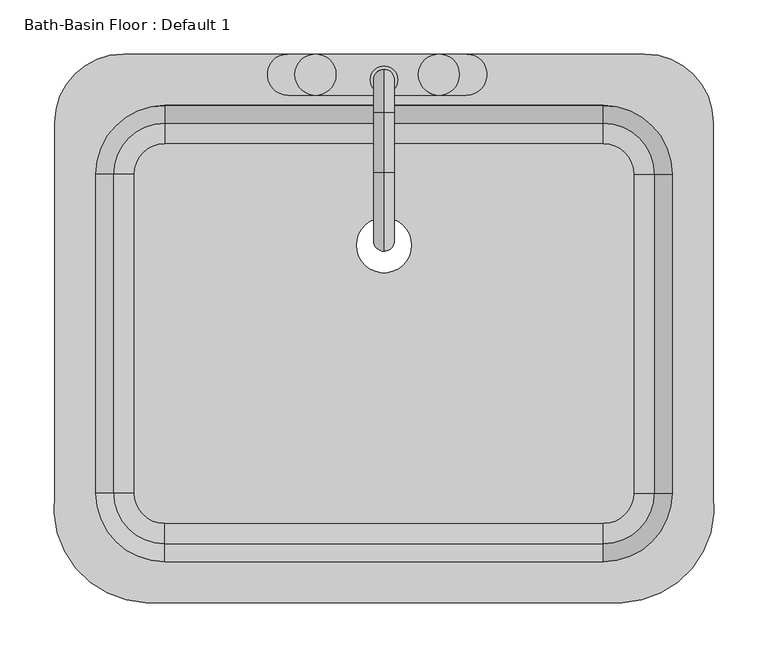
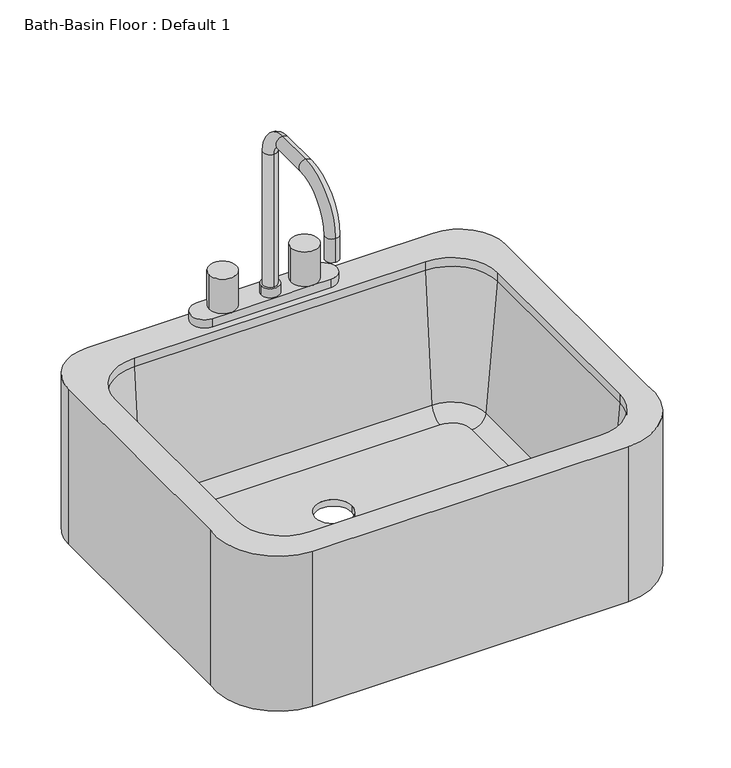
"""IFC4 building model written with IfcOpenShell, lengths in millimetres: flow terminal geometry, Bath-Basin Floor : Default 1."""

from ifc_helpers import new_model, si_unit, point, frame, origin, place, context, project, spatial, polyline, circle_curve, ellipse_curve, trimmed, source, transform, mapped, element, save
from ifc_brep_helpers import plane_surface, cylinder_surface, revolved_surface, advanced_brep


def bath_basin_floor_default_1_27cbf9b9(model_context):
    return source(origin(), model_context, "Body", "AdvancedBrep", [
        advanced_brep(
        [(-204.7606923, -327.8545989, 698.5), (-289.1107593, -226.2545982, 698.5), (-289.1107593, 116.6454011, 698.5), (-225.6107593, 180.1454011, 698.5), (256.9892406, 180.1454011, 698.5), (320.4892406, 116.6454011, 698.5), (320.4892406, -226.2545989, 698.5), (236.1391735, -327.8545989, 698.5), (-9.7107594, 3.175, 698.5), (41.0892406, 3.175, 698.5), (246.8776588, 69.0204011, 708.025), (218.8892406, 97.0088193, 708.025), (-187.5107594, 97.0088193, 708.025), (-215.4991776, 69.0204011, 708.025), (-215.4991776, -226.2545989, 708.025), (-187.5107594, -254.2430171, 708.025), (218.8892406, -254.2430171, 708.025), (246.8776588, -226.2545989, 708.025), (-9.7107594, 3.175, 708.025), (41.0892406, 3.175, 708.025), (265.8551678, 69.0204011, 725.4146831), (218.8892406, 115.9863283, 725.4146831), (282.3892406, 69.0204011, 914.4), (218.8892406, 132.5204011, 914.4), (265.8551678, -226.2545989, 725.4146831), (282.3892406, -226.2545989, 914.4), (218.8892406, -273.2205261, 725.4146831), (218.8892406, -289.7545989, 914.4), (-187.5107594, -273.2205261, 725.4146831), (-187.5107594, -289.7545989, 914.4), (-234.4766866, -226.2545989, 725.4146831), (-251.0107594, -226.2545989, 914.4), (-234.4766866, 69.0204011, 725.4146831), (-251.0107594, 69.0204011, 914.4), (-187.5107594, 115.9863283, 725.4146831), (-187.5107594, 132.5204011, 914.4), (-204.7606923, -327.8545989, 927.1), (236.1391735, -327.8545989, 927.1), (320.4892406, -226.2545989, 927.1), (320.4892406, 116.6454011, 927.1), (256.9892406, 180.1454011, 927.1), (-225.6107593, 180.1454011, 927.1), (-289.1107593, 116.6454011, 927.1), (-289.1107593, -226.2545982, 927.1), (218.8892406, 132.5204011, 927.1), (282.3892406, 69.0204011, 927.1), (282.3892406, -226.2545989, 927.1), (218.8892406, -289.7545989, 927.1), (-187.5107594, -289.7545989, 927.1), (-251.0107594, -226.2545989, 927.1), (-251.0107594, 69.0204011, 927.1), (-187.5107594, 132.5204011, 927.1)],
        [
            (0, 1, circle_curve(frame((-200.9534746, -238.8793432, 698.5), z_axis=(0.0, 0.0, -1.0), x_axis=(1.0, 0.0, 0.0)), 89.0566732)),
            (1, 2),
            (2, 3, circle_curve(frame((-225.6107593, 116.6454011, 698.5), z_axis=(0.0, 0.0, -1.0), x_axis=(1.0, 0.0, 0.0)), 63.5)),
            (3, 4),
            (4, 5, circle_curve(frame((256.9892406, 116.6454011, 698.5), z_axis=(0.0, 0.0, -1.0), x_axis=(1.0, 0.0, 0.0)), 63.5)),
            (5, 6),
            (6, 7, circle_curve(frame((232.3319557, -238.8793432, 698.5), z_axis=(0.0, 0.0, -1.0), x_axis=(1.0, 0.0, 0.0)), 89.0566732)),
            (7, 0),
            (8, 9, circle_curve(frame((15.6892406, 3.175, 698.5), z_axis=(0.0, 0.0, 1.0), x_axis=(1.0, 0.0, 0.0)), 25.4)),
            (9, 8, circle_curve(frame((15.6892406, 3.175, 698.5), z_axis=(0.0, 0.0, 1.0), x_axis=(1.0, 0.0, 0.0)), 25.4)),
            (10, 11, circle_curve(frame((218.8892406, 69.0204011, 708.025), z_axis=(0.0, 0.0, 1.0), x_axis=(0.0, 1.0, 0.0)), 27.9884182)),
            (11, 12),
            (12, 13, circle_curve(frame((-187.5107594, 69.0204011, 708.025), z_axis=(0.0, 0.0, 1.0), x_axis=(-1.0, 0.0, 0.0)), 27.9884182)),
            (13, 14),
            (14, 15, circle_curve(frame((-187.5107594, -226.2545989, 708.025), z_axis=(0.0, 0.0, 1.0), x_axis=(0.0, -1.0, 0.0)), 27.9884182)),
            (15, 16),
            (16, 17, circle_curve(frame((218.8892406, -226.2545989, 708.025), z_axis=(0.0, 0.0, 1.0), x_axis=(1.0, 0.0, 0.0)), 27.9884182)),
            (17, 10),
            (18, 19, circle_curve(frame((15.6892406, 3.175, 708.025), z_axis=(0.0, 0.0, -1.0), x_axis=(1.0, 0.0, 0.0)), 25.4)),
            (19, 18, circle_curve(frame((15.6892406, 3.175, 708.025), z_axis=(0.0, 0.0, -1.0), x_axis=(1.0, 0.0, 0.0)), 25.4)),
            (10, 20, circle_curve(frame((246.8776588, 69.0204011, 727.075), z_axis=(0.0, -1.0, 0.0), x_axis=(1.0, 0.0, 0.0)), 19.05)),
            (20, 21, circle_curve(frame((218.8892406, 69.0204011, 725.4146831), z_axis=(0.0, 0.0, 1.0), x_axis=(0.0, 1.0, 0.0)), 46.9659272)),
            (21, 11, circle_curve(frame((218.8892406, 97.0088193, 727.075), z_axis=(-1.0, 0.0, 0.0), x_axis=(0.0, 1.0, 0.0)), 19.05)),
            (20, 22),
            (22, 23, circle_curve(frame((218.8892406, 69.0204011, 914.4), z_axis=(0.0, 0.0, 1.0), x_axis=(0.0, 1.0, 0.0)), 63.5)),
            (23, 21),
            (17, 24, circle_curve(frame((246.8776588, -226.2545989, 727.075), z_axis=(0.0, -1.0, 0.0), x_axis=(1.0, 0.0, 0.0)), 19.05)),
            (24, 20),
            (24, 25),
            (25, 22),
            (16, 26, circle_curve(frame((218.8892406, -254.2430171, 727.075), z_axis=(-1.0, 0.0, 0.0), x_axis=(0.0, -1.0, 0.0)), 19.05)),
            (26, 24, circle_curve(frame((218.8892406, -226.2545989, 725.4146831), z_axis=(0.0, 0.0, 1.0), x_axis=(1.0, 0.0, 0.0)), 46.9659272)),
            (26, 27),
            (27, 25, circle_curve(frame((218.8892406, -226.2545989, 914.4), z_axis=(0.0, 0.0, 1.0), x_axis=(1.0, 0.0, 0.0)), 63.5)),
            (15, 28, circle_curve(frame((-187.5107594, -254.2430171, 727.075), z_axis=(-1.0, 0.0, 0.0), x_axis=(0.0, -1.0, 0.0)), 19.05)),
            (28, 26),
            (28, 29),
            (29, 27),
            (14, 30, circle_curve(frame((-215.4991776, -226.2545989, 727.075), z_axis=(0.0, 1.0, 0.0), x_axis=(-1.0, 0.0, 0.0)), 19.05)),
            (30, 28, circle_curve(frame((-187.5107594, -226.2545989, 725.4146831), z_axis=(0.0, 0.0, 1.0), x_axis=(0.0, -1.0, 0.0)), 46.9659272)),
            (30, 31),
            (31, 29, circle_curve(frame((-187.5107594, -226.2545989, 914.4), z_axis=(0.0, 0.0, 1.0), x_axis=(0.0, -1.0, 0.0)), 63.5)),
            (13, 32, circle_curve(frame((-215.4991776, 69.0204011, 727.075), z_axis=(0.0, 1.0, 0.0), x_axis=(-1.0, 0.0, 0.0)), 19.05)),
            (32, 30),
            (32, 33),
            (33, 31),
            (12, 34, circle_curve(frame((-187.5107594, 97.0088193, 727.075), z_axis=(1.0, 0.0, 0.0), x_axis=(0.0, 1.0, 0.0)), 19.05)),
            (34, 32, circle_curve(frame((-187.5107594, 69.0204011, 725.4146831), z_axis=(0.0, 0.0, 1.0), x_axis=(-1.0, 0.0, 0.0)), 46.9659272)),
            (34, 35),
            (35, 33, circle_curve(frame((-187.5107594, 69.0204011, 914.4), z_axis=(0.0, 0.0, 1.0), x_axis=(-1.0, 0.0, 0.0)), 63.5)),
            (21, 34),
            (23, 35),
            (18, 8),
            (9, 19),
            (36, 37),
            (37, 38, circle_curve(frame((232.3319557, -238.8793432, 927.1), z_axis=(0.0, 0.0, 1.0), x_axis=(1.0, 0.0, 0.0)), 89.0566732)),
            (38, 39),
            (39, 40, circle_curve(frame((256.9892406, 116.6454011, 927.1), z_axis=(0.0, 0.0, 1.0), x_axis=(1.0, 0.0, 0.0)), 63.5)),
            (40, 41),
            (41, 42, circle_curve(frame((-225.6107593, 116.6454011, 927.1), z_axis=(0.0, 0.0, 1.0), x_axis=(1.0, 0.0, 0.0)), 63.5)),
            (42, 43),
            (43, 36, circle_curve(frame((-200.9534746, -238.8793432, 927.1), z_axis=(0.0, 0.0, 1.0), x_axis=(1.0, 0.0, 0.0)), 89.0566732)),
            (44, 45, circle_curve(frame((218.8892406, 69.0204011, 927.1), z_axis=(0.0, 0.0, -1.0), x_axis=(1.0, 0.0, 0.0)), 63.5)),
            (45, 46),
            (46, 47, circle_curve(frame((218.8892406, -226.2545989, 927.1), z_axis=(0.0, 0.0, -1.0), x_axis=(1.0, 0.0, 0.0)), 63.5)),
            (47, 48),
            (48, 49, circle_curve(frame((-187.5107594, -226.2545989, 927.1), z_axis=(0.0, 0.0, -1.0), x_axis=(1.0, 0.0, 0.0)), 63.5)),
            (49, 50),
            (50, 51, circle_curve(frame((-187.5107594, 69.0204011, 927.1), z_axis=(0.0, 0.0, -1.0), x_axis=(1.0, 0.0, 0.0)), 63.5)),
            (51, 44),
            (36, 0),
            (7, 37),
            (6, 38),
            (5, 39),
            (4, 40),
            (3, 41),
            (2, 42),
            (1, 43),
            (44, 23),
            (22, 45),
            (25, 46),
            (27, 47),
            (29, 48),
            (31, 49),
            (33, 50),
            (35, 51),
        ],
        [
            plane_surface(frame((218.8892406, 69.0204011, 698.5), z_axis=(0.0, 0.0, -1.0), x_axis=(0.0, 1.0, 0.0))),
            plane_surface(frame((218.8892406, 69.0204011, 708.025), z_axis=(0.0, 0.0, 1.0), x_axis=(0.0, 1.0, 0.0))),
            revolved_surface(trimmed(ellipse_curve(frame((218.8892406, 97.0088193, 727.075), z_axis=(1.0, 0.0, 0.0), x_axis=(0.0, 1.0, 0.0)), 19.05, 19.05), [point((218.8892406, 97.0088193, 708.025))], [point((218.8892406, 115.9863283, 725.4146831))], True, "CARTESIAN"), (218.8892406, 69.0204011, 0.0), (0.0, 0.0, -1.0)),
            revolved_surface(polyline([(218.8892406, 115.9863283, 725.4146831), (218.8892406, 132.5204011, 914.4)]), (218.8892406, 69.0204011, 0.0), (0.0, 0.0, -1.0)),
            revolved_surface(polyline([(265.9276588, -226.25459889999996, 727.075), (265.9276588, 69.0204011, 727.075)]), (246.8776588, 69.0204011, 727.075), (0.0, -1.0, 0.0)),
            plane_surface(frame((265.8551678, 69.0204011, 725.4146831), z_axis=(-0.9961946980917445, 0.0, 0.08715574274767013), x_axis=(0.0, -1.0, 0.0))),
            revolved_surface(trimmed(ellipse_curve(frame((246.8776588, -226.2545989, 727.075), z_axis=(0.0, -1.0, 0.0), x_axis=(1.0, 0.0, 0.0)), 19.05, 19.05), [point((246.8776588, -226.2545989, 708.025))], [point((265.8551678, -226.2545989, 725.4146831))], True, "CARTESIAN"), (218.8892406, -226.2545989, 0.0), (0.0, 0.0, -1.0)),
            revolved_surface(polyline([(265.8551678, -226.2545989, 725.4146831), (282.3892406, -226.2545989, 914.4)]), (218.8892406, -226.2545989, 0.0), (0.0, 0.0, -1.0)),
            revolved_surface(polyline([(-187.51075939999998, -273.2930171, 727.075), (218.8892406, -273.2930171, 727.075)]), (218.8892406, -254.2430171, 727.075), (-1.0, 0.0, 0.0)),
            plane_surface(frame((218.8892406, -273.2205261, 725.4146831), z_axis=(0.0, 0.9961946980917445, 0.08715574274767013), x_axis=(-1.0, 0.0, 0.0))),
            revolved_surface(trimmed(ellipse_curve(frame((-187.5107594, -254.2430171, 727.075), z_axis=(-1.0, 0.0, 0.0), x_axis=(0.0, -1.0, 0.0)), 19.05, 19.05), [point((-187.5107594, -254.2430171, 708.025))], [point((-187.5107594, -273.2205261, 725.4146831))], True, "CARTESIAN"), (-187.5107594, -226.2545989, 0.0), (0.0, 0.0, -1.0)),
            revolved_surface(polyline([(-187.5107594, -273.2205261, 725.4146831), (-187.5107594, -289.7545989, 914.4)]), (-187.5107594, -226.2545989, 0.0), (0.0, 0.0, -1.0)),
            revolved_surface(polyline([(-234.5491776, 69.02040109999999, 727.075), (-234.5491776, -226.2545989, 727.075)]), (-215.4991776, -226.2545989, 727.075), (0.0, 1.0, 0.0)),
            plane_surface(frame((-234.4766866, -226.2545989, 725.4146831), z_axis=(0.9961946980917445, 0.0, 0.08715574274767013), x_axis=(0.0, 1.0, 0.0))),
            revolved_surface(trimmed(ellipse_curve(frame((-215.4991776, 69.0204011, 727.075), z_axis=(0.0, 1.0, 0.0), x_axis=(-1.0, 0.0, 0.0)), 19.05, 19.05), [point((-215.4991776, 69.0204011, 708.025))], [point((-234.4766866, 69.0204011, 725.4146831))], True, "CARTESIAN"), (-187.5107594, 69.0204011, 0.0), (0.0, 0.0, -1.0)),
            revolved_surface(polyline([(-234.4766866, 69.0204011, 725.4146831), (-251.0107594, 69.0204011, 914.4)]), (-187.5107594, 69.0204011, 0.0), (0.0, 0.0, -1.0)),
            revolved_surface(polyline([(218.88924059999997, 116.0588193, 727.075), (-187.5107594, 116.0588193, 727.075)]), (-187.5107594, 97.0088193, 727.075), (1.0, 0.0, 0.0)),
            plane_surface(frame((-187.5107594, 115.9863283, 725.4146831), z_axis=(0.0, -0.9961946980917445, 0.08715574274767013), x_axis=(1.0, 0.0, 0.0))),
            revolved_surface(polyline([(41.0892406, 3.175, 698.5), (41.0892406, 3.175, 708.025)]), (15.6892406, 3.175, 0.0), (0.0, 0.0, -1.0)),
            plane_surface(frame((236.1391735, -327.8545989, 927.1), z_axis=(0.0, 0.0, 1.0), x_axis=(1.0, 0.0, 0.0))),
            plane_surface(frame((-204.7606923, -327.8545989, 927.1), z_axis=(0.0, -1.0, 0.0), x_axis=(0.0, 0.0, -1.0))),
            cylinder_surface(frame((232.3319557, -238.8793432, 698.5), z_axis=(0.0, 0.0, 1.0), x_axis=(1.0, 0.0, 0.0)), 89.0566732),
            plane_surface(frame((320.4892406, -226.2545989, 927.1), z_axis=(1.0, 0.0, 0.0), x_axis=(0.0, 0.0, -1.0))),
            cylinder_surface(frame((256.9892406, 116.6454011, 698.5), z_axis=(0.0, 0.0, 1.0), x_axis=(1.0, 0.0, 0.0)), 63.5),
            plane_surface(frame((256.9892406, 180.1454011, 927.1), z_axis=(0.0, 1.0, 0.0), x_axis=(0.0, 0.0, -1.0))),
            cylinder_surface(frame((-225.6107593, 116.6454011, 698.5), z_axis=(0.0, 0.0, 1.0), x_axis=(1.0, 0.0, 0.0)), 63.5),
            plane_surface(frame((-289.1107593, 116.6454011, 927.1), z_axis=(-1.0, 0.0, 0.0), x_axis=(0.0, 0.0, -1.0))),
            cylinder_surface(frame((-200.9534746, -238.8793432, 698.5), z_axis=(0.0, 0.0, 1.0), x_axis=(1.0, 0.0, 0.0)), 89.0566732),
            revolved_surface(polyline([(282.3892406, 69.0204011, 914.4), (282.3892406, 69.0204011, 927.1)]), (218.8892406, 69.0204011, 0.0), (0.0, 0.0, -1.0)),
            plane_surface(frame((282.3892406, 69.0204011, 927.1), z_axis=(-1.0, 0.0, 0.0), x_axis=(0.0, 0.0, -1.0))),
            revolved_surface(polyline([(282.3892406, -226.2545989, 914.4), (282.3892406, -226.2545989, 927.1)]), (218.8892406, -226.2545989, 0.0), (0.0, 0.0, -1.0)),
            plane_surface(frame((218.8892406, -289.7545989, 927.1), z_axis=(0.0, 1.0, 0.0), x_axis=(0.0, 0.0, -1.0))),
            revolved_surface(polyline([(-124.01075940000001, -226.2545989, 914.4), (-124.01075940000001, -226.2545989, 927.1)]), (-187.5107594, -226.2545989, 0.0), (0.0, 0.0, -1.0)),
            plane_surface(frame((-251.0107594, -226.2545989, 927.1), z_axis=(1.0, 0.0, 0.0), x_axis=(0.0, 0.0, -1.0))),
            revolved_surface(polyline([(-124.01075940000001, 69.0204011, 914.4), (-124.01075940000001, 69.0204011, 927.1)]), (-187.5107594, 69.0204011, 0.0), (0.0, 0.0, -1.0)),
            plane_surface(frame((-187.5107594, 132.5204011, 927.1), z_axis=(0.0, -1.0, 0.0), x_axis=(0.0, 0.0, -1.0))),
        ],
        [
            (0, [[1, 2, 3, 4, 5, 6, 7, 8], [9, 10]]),
            (1, [[11, 12, 13, 14, 15, 16, 17, 18], [19, 20]]),
            (2, [[-11, 21, 22, 23]]),
            (3, [[-22, 24, 25, 26]]),
            (4, [[-21, -18, 27, 28]]),
            (5, [[-24, -28, 29, 30]]),
            (6, [[-27, -17, 31, 32]]),
            (7, [[-29, -32, 33, 34]]),
            (8, [[-31, -16, 35, 36]]),
            (9, [[-33, -36, 37, 38]]),
            (10, [[-35, -15, 39, 40]]),
            (11, [[-37, -40, 41, 42]]),
            (12, [[-39, -14, 43, 44]]),
            (13, [[-41, -44, 45, 46]]),
            (14, [[-43, -13, 47, 48]]),
            (15, [[-45, -48, 49, 50]]),
            (16, [[-23, 51, -47, -12]]),
            (17, [[-26, 52, -49, -51]]),
            (18, [[-19, 53, -10, 54]]),
            (18, [[-20, -54, -9, -53]]),
            (19, [[55, 56, 57, 58, 59, 60, 61, 62], [63, 64, 65, 66, 67, 68, 69, 70]]),
            (20, [[-55, 71, -8, 72]]),
            (21, [[-56, -72, -7, 73]]),
            (22, [[-57, -73, -6, 74]]),
            (23, [[-58, -74, -5, 75]]),
            (24, [[-59, -75, -4, 76]]),
            (25, [[-60, -76, -3, 77]]),
            (26, [[-61, -77, -2, 78]]),
            (27, [[-62, -78, -1, -71]]),
            (28, [[-63, 79, -25, 80]]),
            (29, [[-64, -80, -30, 81]]),
            (30, [[-65, -81, -34, 82]]),
            (31, [[-66, -82, -38, 83]]),
            (32, [[-67, -83, -42, 84]]),
            (33, [[-68, -84, -46, 85]]),
            (34, [[-69, -85, -50, 86]]),
            (35, [[-70, -86, -52, -79]]),
        ],
    ),
        advanced_brep(
        [(91.8892406, 180.1454011, 927.1), (91.8892406, 142.0454011, 927.1), (66.4892406, 142.0454011, 927.1), (-47.8107594, 142.0454011, 927.1), (-73.2107594, 142.0454011, 927.1), (-73.2107594, 180.1454011, 927.1), (-47.8107594, 180.1454011, 927.1), (66.4892406, 180.1454011, 927.1), (15.6892406, 165.8579011, 1147.7625), (15.6892406, 146.8079011, 1147.7625), (15.6892406, 146.8079011, 952.5), (15.6892406, 165.8579011, 952.5), (15.6892406, 126.1704011, 1187.45), (15.6892406, 126.1704011, 1168.4), (15.6892406, 70.6079011, 1187.45), (15.6892406, 70.6079011, 1168.4), (15.6892406, -2.4170989, 1114.425), (15.6892406, 16.6329011, 1114.425), (15.6892406, -2.4170989, 1079.5), (15.6892406, 16.6329011, 1079.5), (2.9892406, 156.3329011, 952.5), (28.3892406, 156.3329011, 952.5), (2.9892406, 156.3329011, 939.6), (28.3892406, 156.3329011, 939.6), (-73.2107594, 180.1454011, 939.6), (-73.2107594, 142.0454011, 939.6), (-47.8107594, 142.0454011, 939.6), (-66.8607594, 161.0954011, 939.6), (-47.8107594, 180.1454011, 939.6), (91.8892406, 142.0454011, 939.6), (91.8892406, 180.1454011, 939.6), (66.4892406, 180.1454011, 939.6), (85.5392406, 161.0954011, 939.6), (66.4892406, 142.0454011, 939.6), (-28.7607594, 161.0954011, 939.6), (47.4392406, 161.0954011, 939.6), (-66.8607594, 161.0954011, 990.6), (-28.7607594, 161.0954011, 990.6), (47.4392406, 161.0954011, 990.6), (85.5392406, 161.0954011, 990.6)],
        [
            (0, 1, circle_curve(frame((91.8892406, 161.0954011, 927.1), z_axis=(0.0, 0.0, -1.0), x_axis=(1.0, 0.0, 0.0)), 19.05)),
            (1, 2),
            (2, 3),
            (3, 4),
            (4, 5, circle_curve(frame((-73.2107594, 161.0954011, 927.1), z_axis=(0.0, 0.0, -1.0), x_axis=(1.0, 0.0, 0.0)), 19.05)),
            (5, 6),
            (6, 7),
            (7, 0),
            (8, 9, circle_curve(frame((15.6892406, 156.3329011, 1147.7625), z_axis=(0.0, 0.0, -1.0), x_axis=(0.0, -1.0, 0.0)), 9.525)),
            (9, 10),
            (10, 11, circle_curve(frame((15.6892406, 156.3329011, 952.5), z_axis=(0.0, 0.0, 1.0), x_axis=(0.0, -1.0, 0.0)), 9.525)),
            (11, 8),
            (9, 8, circle_curve(frame((15.6892406, 156.3329011, 1147.7625), z_axis=(0.0, 0.0, -1.0), x_axis=(0.0, -1.0, 0.0)), 9.525)),
            (11, 10, circle_curve(frame((15.6892406, 156.3329011, 952.5), z_axis=(0.0, 0.0, 1.0), x_axis=(0.0, -1.0, 0.0)), 9.525)),
            (8, 12, circle_curve(frame((15.6892406, 126.1704011, 1147.7625), z_axis=(1.0, 0.0, 0.0), x_axis=(0.0, 1.0, 0.0)), 39.6875)),
            (12, 13, circle_curve(frame((15.6892406, 126.1704011, 1177.925), z_axis=(0.0, 1.0, 0.0), x_axis=(0.0, 0.0, -1.0)), 9.525)),
            (13, 9, circle_curve(frame((15.6892406, 126.1704011, 1147.7625), z_axis=(-1.0, 0.0, 0.0), x_axis=(0.0, 1.0, 0.0)), 20.6375)),
            (13, 12, circle_curve(frame((15.6892406, 126.1704011, 1177.925), z_axis=(0.0, 1.0, 0.0), x_axis=(0.0, 0.0, -1.0)), 9.525)),
            (12, 14),
            (14, 15, circle_curve(frame((15.6892406, 70.6079011, 1177.925), z_axis=(0.0, 1.0, 0.0), x_axis=(0.0, 0.0, -1.0)), 9.525)),
            (15, 13),
            (15, 14, circle_curve(frame((15.6892406, 70.6079011, 1177.925), z_axis=(0.0, 1.0, 0.0), x_axis=(0.0, 0.0, -1.0)), 9.525)),
            (14, 16, circle_curve(frame((15.6892406, 70.6079011, 1114.425), z_axis=(1.0, 0.0, 0.0), x_axis=(0.0, 0.0, 1.0)), 73.025)),
            (16, 17, circle_curve(frame((15.6892406, 7.1079011, 1114.425), z_axis=(0.0, 0.0, 1.0), x_axis=(0.0, 1.0, 0.0)), 9.525)),
            (17, 15, circle_curve(frame((15.6892406, 70.6079011, 1114.425), z_axis=(-1.0, 0.0, 0.0), x_axis=(0.0, 0.0, 1.0)), 53.975)),
            (17, 16, circle_curve(frame((15.6892406, 7.1079011, 1114.425), z_axis=(0.0, 0.0, 1.0), x_axis=(0.0, 1.0, 0.0)), 9.525)),
            (18, 19, circle_curve(frame((15.6892406, 7.1079011, 1079.5), z_axis=(0.0, 0.0, -1.0), x_axis=(0.0, 1.0, 0.0)), 9.525)),
            (19, 18, circle_curve(frame((15.6892406, 7.1079011, 1079.5), z_axis=(0.0, 0.0, -1.0), x_axis=(0.0, 1.0, 0.0)), 9.525)),
            (16, 18),
            (19, 17),
            (20, 21, circle_curve(frame((15.6892406, 156.3329011, 952.5), z_axis=(0.0, 0.0, 1.0), x_axis=(1.0, 0.0, 0.0)), 12.7)),
            (21, 20, circle_curve(frame((15.6892406, 156.3329011, 952.5), z_axis=(0.0, 0.0, 1.0), x_axis=(1.0, 0.0, 0.0)), 12.7)),
            (20, 22),
            (22, 23, circle_curve(frame((15.6892406, 156.3329011, 939.6), z_axis=(0.0, 0.0, 1.0), x_axis=(1.0, 0.0, 0.0)), 12.7)),
            (23, 21),
            (23, 22, circle_curve(frame((15.6892406, 156.3329011, 939.6), z_axis=(0.0, 0.0, 1.0), x_axis=(1.0, 0.0, 0.0)), 12.7)),
            (24, 25, circle_curve(frame((-73.2107594, 161.0954011, 939.6), z_axis=(0.0, 0.0, 1.0), x_axis=(1.0, 0.0, 0.0)), 19.05)),
            (25, 26),
            (26, 27, circle_curve(frame((-47.8107594, 161.0954011, 939.6), z_axis=(0.0, 0.0, -1.0), x_axis=(1.0, 0.0, 0.0)), 19.05)),
            (27, 28, circle_curve(frame((-47.8107594, 161.0954011, 939.6), z_axis=(0.0, 0.0, -1.0), x_axis=(1.0, 0.0, 0.0)), 19.05)),
            (28, 24),
            (29, 30, circle_curve(frame((91.8892406, 161.0954011, 939.6), z_axis=(0.0, 0.0, 1.0), x_axis=(1.0, 0.0, 0.0)), 19.05)),
            (30, 31),
            (31, 32, circle_curve(frame((66.4892406, 161.0954011, 939.6), z_axis=(0.0, 0.0, -1.0), x_axis=(1.0, 0.0, 0.0)), 19.05)),
            (32, 33, circle_curve(frame((66.4892406, 161.0954011, 939.6), z_axis=(0.0, 0.0, -1.0), x_axis=(1.0, 0.0, 0.0)), 19.05)),
            (33, 29),
            (31, 28),
            (28, 34, circle_curve(frame((-47.8107594, 161.0954011, 939.6), z_axis=(0.0, 0.0, -1.0), x_axis=(1.0, 0.0, 0.0)), 19.05)),
            (34, 26, circle_curve(frame((-47.8107594, 161.0954011, 939.6), z_axis=(0.0, 0.0, -1.0), x_axis=(1.0, 0.0, 0.0)), 19.05)),
            (26, 33),
            (33, 35, circle_curve(frame((66.4892406, 161.0954011, 939.6), z_axis=(0.0, 0.0, -1.0), x_axis=(1.0, 0.0, 0.0)), 19.05)),
            (35, 31, circle_curve(frame((66.4892406, 161.0954011, 939.6), z_axis=(0.0, 0.0, -1.0), x_axis=(1.0, 0.0, 0.0)), 19.05)),
            (30, 0),
            (5, 24),
            (4, 25),
            (1, 29),
            (36, 37, circle_curve(frame((-47.8107594, 161.0954011, 990.6), z_axis=(0.0, 0.0, 1.0), x_axis=(1.0, 0.0, 0.0)), 19.05)),
            (37, 36, circle_curve(frame((-47.8107594, 161.0954011, 990.6), z_axis=(0.0, 0.0, 1.0), x_axis=(1.0, 0.0, 0.0)), 19.05)),
            (38, 39, circle_curve(frame((66.4892406, 161.0954011, 990.6), z_axis=(0.0, 0.0, 1.0), x_axis=(1.0, 0.0, 0.0)), 19.05)),
            (39, 38, circle_curve(frame((66.4892406, 161.0954011, 990.6), z_axis=(0.0, 0.0, 1.0), x_axis=(1.0, 0.0, 0.0)), 19.05)),
            (36, 27),
            (34, 37),
            (38, 35),
            (32, 39),
        ],
        [
            plane_surface(frame((15.6892406, 146.8079011, 927.1), z_axis=(0.0, 0.0, -1.0), x_axis=(1.0, 0.0, 0.0))),
            cylinder_surface(frame((15.6892406, 156.3329011, 927.1), z_axis=(0.0, 0.0, -1.0), x_axis=(0.0, -1.0, 0.0)), 9.525),
            revolved_surface(trimmed(ellipse_curve(frame((15.6892406, 156.3329011, 1147.7625), z_axis=(0.0, 0.0, -1.0), x_axis=(0.0, -1.0, 0.0)), 9.525, 9.525), [point((15.6892406, 165.8579011, 1147.7625))], [point((15.6892406, 146.8079011, 1147.7625))], True, "CARTESIAN"), (15.6892406, 126.1704011, 1147.7625), (1.0, 0.0, 0.0)),
            revolved_surface(trimmed(ellipse_curve(frame((15.6892406, 156.3329011, 1147.7625), z_axis=(0.0, 0.0, -1.0), x_axis=(0.0, -1.0, 0.0)), 9.525, 9.525), [point((15.6892406, 146.8079011, 1147.7625))], [point((15.6892406, 165.8579011, 1147.7625))], True, "CARTESIAN"), (15.6892406, 126.1704011, 1147.7625), (1.0, 0.0, 0.0)),
            cylinder_surface(frame((15.6892406, 126.1704011, 1177.925), z_axis=(0.0, 1.0, 0.0), x_axis=(0.0, 0.0, -1.0)), 9.525),
            revolved_surface(trimmed(ellipse_curve(frame((15.6892406, 70.6079011, 1177.925), z_axis=(0.0, 1.0, 0.0), x_axis=(0.0, 0.0, -1.0)), 9.525, 9.525), [point((15.6892406, 70.6079011, 1187.45))], [point((15.6892406, 70.6079011, 1168.4))], True, "CARTESIAN"), (15.6892406, 70.6079011, 1114.425), (1.0, 0.0, 0.0)),
            revolved_surface(trimmed(ellipse_curve(frame((15.6892406, 70.6079011, 1177.925), z_axis=(0.0, 1.0, 0.0), x_axis=(0.0, 0.0, -1.0)), 9.525, 9.525), [point((15.6892406, 70.6079011, 1168.4))], [point((15.6892406, 70.6079011, 1187.45))], True, "CARTESIAN"), (15.6892406, 70.6079011, 1114.425), (1.0, 0.0, 0.0)),
            plane_surface(frame((15.6892406, -2.4170989, 1079.5), z_axis=(0.0, 0.0, -1.0), x_axis=(-1.0, 0.0, 0.0))),
            cylinder_surface(frame((15.6892406, 7.1079011, 1114.425), z_axis=(0.0, 0.0, 1.0), x_axis=(0.0, 1.0, 0.0)), 9.525),
            plane_surface(frame((28.3892406, 156.3329011, 952.5), z_axis=(0.0, 0.0, 1.0), x_axis=(0.0, 1.0, 0.0))),
            cylinder_surface(frame((15.6892406, 156.3329011, 927.1), z_axis=(0.0, 0.0, 1.0), x_axis=(1.0, 0.0, 0.0)), 12.7),
            plane_surface(frame((-73.2107594, 180.1454011, 939.6), z_axis=(0.0, 0.0, 1.0), x_axis=(-1.0, 0.0, 0.0))),
            plane_surface(frame((91.8892406, 180.1454011, 939.6), z_axis=(0.0, 1.0, 0.0), x_axis=(0.0, 0.0, -1.0))),
            cylinder_surface(frame((-73.2107594, 161.0954011, 927.1), z_axis=(0.0, 0.0, 1.0), x_axis=(1.0, 0.0, 0.0)), 19.05),
            plane_surface(frame((-73.2107594, 142.0454011, 939.6), z_axis=(0.0, -1.0, 0.0), x_axis=(0.0, 0.0, -1.0))),
            cylinder_surface(frame((91.8892406, 161.0954011, 927.1), z_axis=(0.0, 0.0, 1.0), x_axis=(1.0, 0.0, 0.0)), 19.05),
            plane_surface(frame((-28.7607594, 161.0954011, 990.6), z_axis=(0.0, 0.0, 1.0), x_axis=(0.0, 1.0, 0.0))),
            cylinder_surface(frame((-47.8107594, 161.0954011, 927.1), z_axis=(0.0, 0.0, 1.0), x_axis=(1.0, 0.0, 0.0)), 19.05),
            cylinder_surface(frame((66.4892406, 161.0954011, 0.0), z_axis=(0.0, 0.0, 1.0), x_axis=(1.0, 0.0, 0.0)), 19.05),
        ],
        [
            (0, [[1, 2, 3, 4, 5, 6, 7, 8]]),
            (1, [[9, 10, 11, 12]]),
            (1, [[13, -12, 14, -10]]),
            (2, [[-9, 15, 16, 17]]),
            (3, [[-13, -17, 18, -15]]),
            (4, [[-16, 19, 20, 21]]),
            (4, [[-18, -21, 22, -19]]),
            (5, [[-20, 23, 24, 25]]),
            (6, [[-22, -25, 26, -23]]),
            (7, [[27, 28]]),
            (8, [[-24, 29, -28, 30]]),
            (8, [[-26, -30, -27, -29]]),
            (9, [[31, 32], [-11, -14]]),
            (10, [[-31, 33, 34, 35]]),
            (10, [[-32, -35, 36, -33]]),
            (11, [[37, 38, 39, 40, 41]]),
            (11, [[42, 43, 44, 45, 46]]),
            (11, [[47, 48, 49, 50, 51, 52], [-34, -36]]),
            (12, [[53, -8, -7, -6, 54, -41, -47, -43]]),
            (13, [[-37, -54, -5, 55]]),
            (14, [[-55, -4, -3, -2, 56, -46, -50, -38]]),
            (15, [[-42, -56, -1, -53]]),
            (16, [[57, 58]]),
            (16, [[59, 60]]),
            (17, [[-57, 61, -39, -49, 62]]),
            (17, [[-58, -62, -48, -40, -61]]),
            (18, [[-59, 63, -51, -45, 64]]),
            (18, [[-60, -64, -44, -52, -63]]),
        ],
    ),
    ])


if __name__ == "__main__":
    model = new_model("IFC4")
    model_context = context("Model", 3, world=origin())
    ifc_project = project(units=[si_unit("LENGTHUNIT", "METRE", prefix="MILLI")], contexts=[model_context])
    site = spatial("IfcSite", under=ifc_project)
    building = spatial("IfcBuilding", under=site)
    placement = place(None, origin())
    bath_basin_floor_default_1_shape = bath_basin_floor_default_1_27cbf9b9(model_context)
    element("IfcFlowTerminal", 1, ObjectType="Bath-Basin Floor : Default 1", at=placement, inside=building, context=model_context, shape_type="MappedRepresentation", body=[
        mapped(bath_basin_floor_default_1_shape, transform((0.0, 0.0, 0.0), x_axis=(1.0, 0.0, 0.0), y_axis=(0.0, 1.0, 0.0), z_axis=(0.0, 0.0, 1.0))),
    ])
    save(model, "model.ifc")
